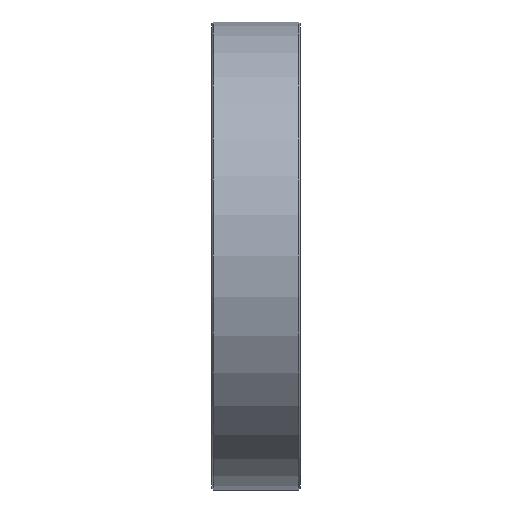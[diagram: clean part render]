
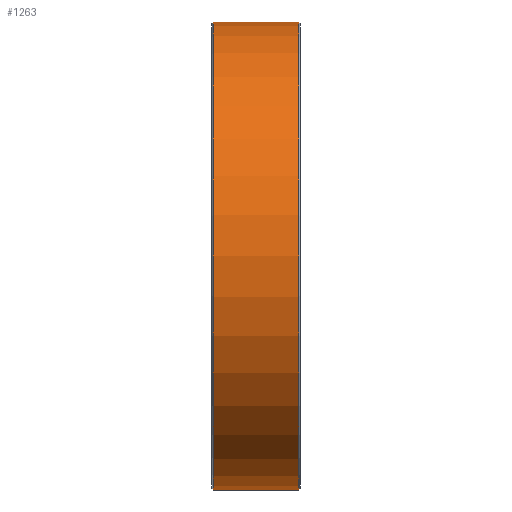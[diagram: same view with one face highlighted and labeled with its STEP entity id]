
A CAD part, left-side view. The second image highlights one B-rep face of the part: STEP entity #1263.
In plain terms, the highlighted cylindrical face has radius 35.75 mm (diameter 71.5 mm), a partial arc.
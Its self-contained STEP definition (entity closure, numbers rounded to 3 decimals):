
#217 = AXIS2_PLACEMENT_3D ( 'NONE', #2127, #1188, #595 ) ;
#314 = EDGE_CURVE ( 'NONE', #3106, #2301, #2876, .T. ) ;
#595 = DIRECTION ( 'NONE',  ( 0., 0., 1. ) ) ;
#684 = DIRECTION ( 'NONE',  ( 0., 1., 0. ) ) ;
#786 = CIRCLE ( 'NONE', #2230, 35.75 ) ;
#792 = CARTESIAN_POINT ( 'NONE',  ( 0., -22.25, -35.75 ) ) ;
#956 = CYLINDRICAL_SURFACE ( 'NONE', #217, 35.75 ) ;
#1164 = DIRECTION ( 'NONE',  ( 0., 0., 1. ) ) ;
#1188 = DIRECTION ( 'NONE',  ( 0., 1., 0. ) ) ;
#1263 = ADVANCED_FACE ( 'NONE', ( #2736 ), #956, .T. ) ;
#1383 = DIRECTION ( 'NONE',  ( 0., 1., 0. ) ) ;
#1391 = CARTESIAN_POINT ( 'NONE',  ( 0., -22.5, 35.75 ) ) ;
#1449 = EDGE_CURVE ( 'NONE', #2974, #3106, #786, .T. ) ;
#1663 = DIRECTION ( 'NONE',  ( 0., 1., 0. ) ) ;
#1735 = LINE ( 'NONE', #2920, #3772 ) ;
#1757 = CIRCLE ( 'NONE', #1947, 35.75 ) ;
#1803 = ORIENTED_EDGE ( 'NONE', *, *, #314, .T. ) ;
#1947 = AXIS2_PLACEMENT_3D ( 'NONE', #3839, #1383, #1164 ) ;
#2127 = CARTESIAN_POINT ( 'NONE',  ( 0., -22.5, 0. ) ) ;
#2157 = EDGE_CURVE ( 'NONE', #2974, #2898, #1735, .T. ) ;
#2230 = AXIS2_PLACEMENT_3D ( 'NONE', #3716, #684, #3061 ) ;
#2301 = VERTEX_POINT ( 'NONE', #2973 ) ;
#2379 = ORIENTED_EDGE ( 'NONE', *, *, #1449, .T. ) ;
#2546 = CARTESIAN_POINT ( 'NONE',  ( 0., -9.25, -35.75 ) ) ;
#2580 = DIRECTION ( 'NONE',  ( 0., 1., 0. ) ) ;
#2591 = EDGE_CURVE ( 'NONE', #2898, #2301, #1757, .T. ) ;
#2736 = FACE_OUTER_BOUND ( 'NONE', #2738, .T. ) ;
#2738 = EDGE_LOOP ( 'NONE', ( #3755, #2379, #1803, #3152 ) ) ;
#2876 = LINE ( 'NONE', #1391, #3624 ) ;
#2898 = VERTEX_POINT ( 'NONE', #2546 ) ;
#2920 = CARTESIAN_POINT ( 'NONE',  ( 0., -22.5, -35.75 ) ) ;
#2973 = CARTESIAN_POINT ( 'NONE',  ( 0., -9.25, 35.75 ) ) ;
#2974 = VERTEX_POINT ( 'NONE', #792 ) ;
#3061 = DIRECTION ( 'NONE',  ( 0., 0., 1. ) ) ;
#3106 = VERTEX_POINT ( 'NONE', #3533 ) ;
#3152 = ORIENTED_EDGE ( 'NONE', *, *, #2591, .F. ) ;
#3533 = CARTESIAN_POINT ( 'NONE',  ( 0., -22.25, 35.75 ) ) ;
#3624 = VECTOR ( 'NONE', #2580, 1000. ) ;
#3716 = CARTESIAN_POINT ( 'NONE',  ( 0., -22.25, 0. ) ) ;
#3755 = ORIENTED_EDGE ( 'NONE', *, *, #2157, .F. ) ;
#3772 = VECTOR ( 'NONE', #1663, 1000. ) ;
#3839 = CARTESIAN_POINT ( 'NONE',  ( 0., -9.25, 0. ) ) ;
